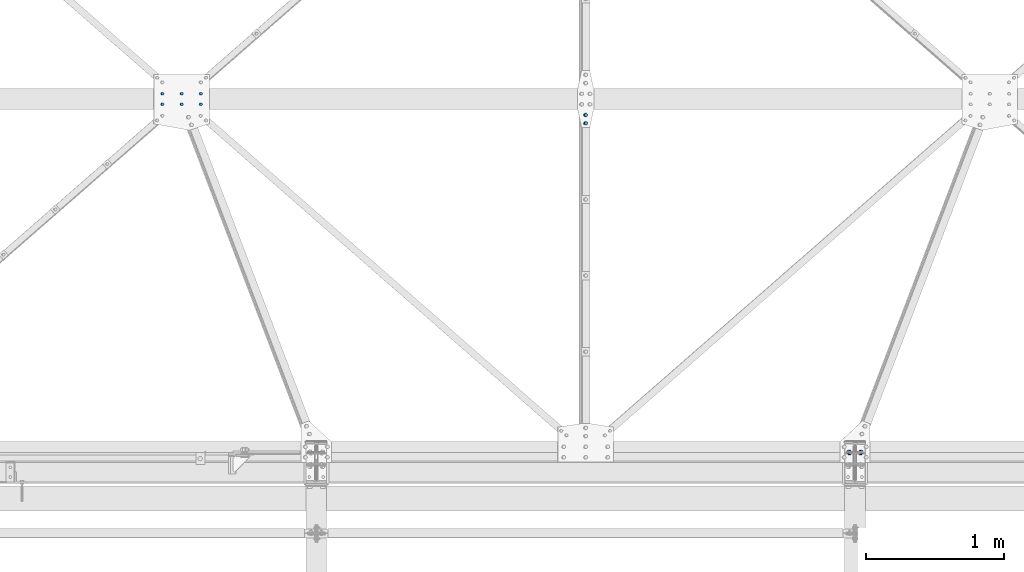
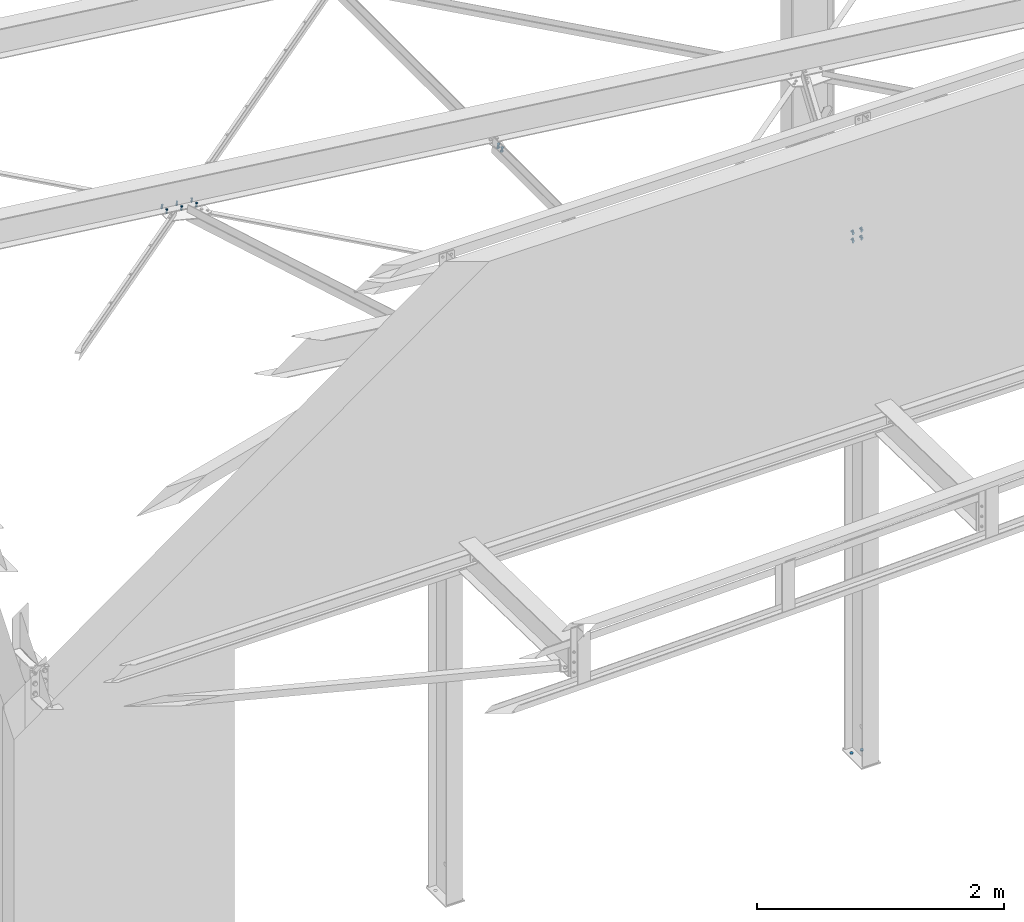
# One storey, part 28 of 3134: 4 mechanical fasteners, 4 elements without a shape of their own.
"""IFC2X3 building model written with IfcOpenShell, lengths in millimetres."""

from ifc_helpers import new_model, si_unit, frame, origin_with_axes, place, context, subcontext, project, spatial, faceted_brep, source, transform, mapped, material, type_object, element, aggregate, save


model = new_model("IFC2X3")

# Units and contexts
model_context = context("Model", 3, precision=1e-05, world=origin_with_axes())
body_context = subcontext(model_context, "Body", "Model", "MODEL_VIEW")
ifc_project = project(units=[si_unit("LENGTHUNIT", "METRE", prefix="MILLI"), si_unit("AREAUNIT", "SQUARE_METRE"), si_unit("VOLUMEUNIT", "CUBIC_METRE"), si_unit("MASSUNIT", "GRAM", prefix="KILO"), si_unit("TIMEUNIT", "SECOND"), si_unit("PLANEANGLEUNIT", "RADIAN"), si_unit("SOLIDANGLEUNIT", "STERADIAN"), si_unit("THERMODYNAMICTEMPERATUREUNIT", "DEGREE_CELSIUS"), si_unit("LUMINOUSINTENSITYUNIT", "LUMEN")], contexts=[model_context])

# Site, building, storey
site_placement = place(None, origin_with_axes())
site = spatial("IfcSite", under=ifc_project, at=site_placement, CompositionType="ELEMENT")
building_placement = place(site_placement, origin_with_axes())
building = spatial("IfcBuilding", under=site, at=building_placement, Name="Undefined", CompositionType="ELEMENT")
storey_placement = place(building_placement, origin_with_axes())
storey = spatial("IfcBuildingStorey", under=building, at=storey_placement, Name="Undefined", CompositionType="ELEMENT", Elevation=0.0)

# Assembly, mechanical fastener
assembly_1_placement = place(storey_placement, origin_with_axes())
assembly_1 = element("IfcElementAssembly", 1, at=assembly_1_placement, inside=storey, AssemblyPlace="NOTDEFINED", PredefinedType="RIGID_FRAME")
ifc_material = material(Name="8.8")
mechanical_fastener_type = type_object("IfcMechanicalFastenerType", Name="Bolt assembly")
shared_shape_1 = source(origin_with_axes(), body_context, "Body", "Brep", [
    faceted_brep([(13.856406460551, -16.9990000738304, 0.0), (6.92820323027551, -16.9990000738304, 12.0), (-6.92820323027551, -16.9990000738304, 12.0), (-13.856406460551, -16.9990000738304, 1.69692038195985e-15), (-6.92820323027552, -16.9990000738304, -12.0), (6.9282032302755, -16.9990000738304, -12.0), (6.9282032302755, -6.99900007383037, -12.0), (-6.92820323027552, -6.99900007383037, -12.0), (-13.856406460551, -6.99900007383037, 1.69692038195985e-15), (-6.92820323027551, -6.99900007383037, 12.0), (6.92820323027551, -6.99900007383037, 12.0), (13.856406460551, -6.99900007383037, 0.0), (8.0, -6.99900007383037, 0.0), (6.92820323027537, -6.99900007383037, 4.00000000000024), (3.99999999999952, -6.99900007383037, 6.92820323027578), (-8.29068785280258e-13, -6.99900007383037, 8.0), (-4.00000000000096, -6.99900007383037, 6.92820323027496), (-6.9282032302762, -6.99900007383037, 3.99999999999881), (-8.0, -6.99900007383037, -1.65813757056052e-12), (-6.92820323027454, -6.99900007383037, -4.00000000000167), (-3.99999999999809, -6.99900007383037, -6.92820323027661), (2.47832457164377e-12, -6.99900007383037, -8.0), (4.00000000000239, -6.99900007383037, -6.92820323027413), (6.92820323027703, -6.99900007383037, -3.99999999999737), (6.92820323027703, 33.0009999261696, -3.99999999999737), (4.00000000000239, 33.0009999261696, -6.92820323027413), (2.47832457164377e-12, 33.0009999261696, -8.0), (-3.99999999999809, 33.0009999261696, -6.92820323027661), (-6.92820323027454, 33.0009999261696, -4.00000000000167), (-8.0, 33.0009999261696, -1.65813757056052e-12), (-6.9282032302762, 33.0009999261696, 3.99999999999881), (-4.00000000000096, 33.0009999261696, 6.92820323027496), (-8.29068785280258e-13, 33.0009999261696, 8.0), (3.99999999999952, 33.0009999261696, 6.92820323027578), (6.92820323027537, 33.0009999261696, 4.00000000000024), (8.0, 33.0009999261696, 0.0), (13.856406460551, 14.9990000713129, 0.0), (6.92820323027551, 14.9990000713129, 12.0), (-6.92820323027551, 14.9990000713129, 12.0), (-13.856406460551, 14.9990000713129, 1.69692038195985e-15), (-6.92820323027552, 14.9990000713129, -12.0), (6.9282032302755, 14.9990000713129, -12.0), (6.9282032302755, 27.9990000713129, -12.0), (-6.92820323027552, 27.9990000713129, -12.0), (-13.856406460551, 27.9990000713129, 1.69692038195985e-15), (-6.92820323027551, 27.9990000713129, 12.0), (6.92820323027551, 27.9990000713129, 12.0), (13.856406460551, 27.9990000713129, 0.0)], [[[0, 1, 2, 3, 4, 5]], [[6, 7, 8, 9, 10, 11]], [[0, 11, 10, 1]], [[1, 10, 9, 2]], [[2, 9, 8, 3]], [[3, 8, 7, 4]], [[4, 7, 6, 5]], [[5, 6, 11, 0]], [[12, 13, 14, 15, 16, 17, 18, 19, 20, 21, 22, 23]], [[24, 25, 26, 27, 28, 29, 30, 31, 32, 33, 34, 35]], [[12, 35, 34, 13]], [[13, 34, 33, 14]], [[14, 33, 32, 15]], [[15, 32, 31, 16]], [[16, 31, 30, 17]], [[17, 30, 29, 18]], [[18, 29, 28, 19]], [[19, 28, 27, 20]], [[20, 27, 26, 21]], [[21, 26, 25, 22]], [[22, 25, 24, 23]], [[23, 24, 35, 12]], [[36, 37, 38, 39, 40, 41]], [[42, 43, 44, 45, 46, 47]], [[36, 47, 46, 37]], [[37, 46, 45, 38]], [[38, 45, 44, 39]], [[39, 44, 43, 40]], [[40, 43, 42, 41]], [[41, 42, 47, 36]]]),
    faceted_brep([(9.0, -3.46568413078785e-07, 0.0), (7.79422863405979, -3.46568413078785e-07, 4.50000000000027), (4.49999999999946, -3.46568413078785e-07, 7.79422863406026), (-9.3270238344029e-13, -3.46568413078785e-07, 9.0), (-4.50000000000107, -3.46568413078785e-07, 7.79422863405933), (-7.79422863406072, -3.46568413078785e-07, 4.49999999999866), (-9.0, -3.46568413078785e-07, -1.86540476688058e-12), (-7.79422863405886, -3.46568413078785e-07, -4.50000000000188), (-4.49999999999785, -3.46568413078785e-07, -7.79422863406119), (2.78811514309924e-12, -3.46568413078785e-07, -9.0), (4.50000000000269, -3.46568413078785e-07, -7.7942286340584), (7.79422863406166, -3.46568413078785e-07, -4.49999999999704), (7.79422863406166, 8.00000000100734, -4.49999999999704), (4.50000000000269, 8.00000000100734, -7.7942286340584), (2.78811514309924e-12, 8.00000000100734, -9.0), (-4.49999999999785, 8.00000000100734, -7.79422863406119), (-7.79422863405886, 8.00000000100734, -4.50000000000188), (-9.0, 8.00000000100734, -1.86540476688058e-12), (-7.79422863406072, 8.00000000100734, 4.49999999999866), (-4.50000000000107, 8.00000000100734, 7.79422863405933), (-9.3270238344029e-13, 8.00000000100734, 9.0), (4.49999999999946, 8.00000000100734, 7.79422863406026), (7.79422863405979, 8.00000000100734, 4.50000000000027), (9.0, 8.00000000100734, 0.0), (9.0, -6.89900007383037, 0.0), (7.79422863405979, -6.89900007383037, 4.50000000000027), (4.49999999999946, -6.89900007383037, 7.79422863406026), (-9.3270238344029e-13, -6.89900007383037, 9.0), (-4.50000000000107, -6.89900007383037, 7.79422863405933), (-7.79422863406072, -6.89900007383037, 4.49999999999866), (-9.0, -6.89900007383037, -1.86540476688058e-12), (-7.79422863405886, -6.89900007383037, -4.50000000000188), (-4.49999999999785, -6.89900007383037, -7.79422863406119), (2.78811514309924e-12, -6.89900007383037, -9.0), (4.50000000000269, -6.89900007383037, -7.7942286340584), (7.79422863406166, -6.89900007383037, -4.49999999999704), (7.79422863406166, 0.100999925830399, -4.49999999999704), (4.50000000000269, 0.100999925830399, -7.7942286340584), (2.78811514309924e-12, 0.100999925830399, -9.0), (-4.49999999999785, 0.100999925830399, -7.79422863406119), (-7.79422863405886, 0.100999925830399, -4.50000000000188), (-9.0, 0.100999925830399, -1.86540476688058e-12), (-7.79422863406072, 0.100999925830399, 4.49999999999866), (-4.50000000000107, 0.100999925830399, 7.79422863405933), (-9.3270238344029e-13, 0.100999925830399, 9.0), (4.49999999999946, 0.100999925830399, 7.79422863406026), (7.79422863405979, 0.100999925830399, 4.50000000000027), (9.0, 0.100999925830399, 0.0), (9.0, 7.89900007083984, 0.0), (7.79422863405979, 7.89900007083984, 4.50000000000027), (4.49999999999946, 7.89900007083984, 7.79422863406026), (-9.3270238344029e-13, 7.89900007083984, 9.0), (-4.50000000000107, 7.89900007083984, 7.79422863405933), (-7.79422863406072, 7.89900007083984, 4.49999999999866), (-9.0, 7.89900007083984, -1.86540476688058e-12), (-7.79422863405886, 7.89900007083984, -4.50000000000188), (-4.49999999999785, 7.89900007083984, -7.79422863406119), (2.78811514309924e-12, 7.89900007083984, -9.0), (4.50000000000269, 7.89900007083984, -7.7942286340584), (7.79422863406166, 7.89900007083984, -4.49999999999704), (7.79422863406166, 14.9990000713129, -4.49999999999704), (4.50000000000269, 14.9990000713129, -7.7942286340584), (2.78811514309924e-12, 14.9990000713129, -9.0), (-4.49999999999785, 14.9990000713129, -7.79422863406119), (-7.79422863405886, 14.9990000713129, -4.50000000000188), (-9.0, 14.9990000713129, -1.86540476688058e-12), (-7.79422863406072, 14.9990000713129, 4.49999999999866), (-4.50000000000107, 14.9990000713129, 7.79422863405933), (-9.3270238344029e-13, 14.9990000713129, 9.0), (4.49999999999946, 14.9990000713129, 7.79422863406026), (7.79422863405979, 14.9990000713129, 4.50000000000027), (9.0, 14.9990000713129, 0.0)], [[[0, 1, 2, 3, 4, 5, 6, 7, 8, 9, 10, 11]], [[12, 13, 14, 15, 16, 17, 18, 19, 20, 21, 22, 23]], [[0, 23, 22, 1]], [[1, 22, 21, 2]], [[2, 21, 20, 3]], [[3, 20, 19, 4]], [[4, 19, 18, 5]], [[5, 18, 17, 6]], [[6, 17, 16, 7]], [[7, 16, 15, 8]], [[8, 15, 14, 9]], [[9, 14, 13, 10]], [[10, 13, 12, 11]], [[11, 12, 23, 0]], [[24, 25, 26, 27, 28, 29, 30, 31, 32, 33, 34, 35]], [[36, 37, 38, 39, 40, 41, 42, 43, 44, 45, 46, 47]], [[24, 47, 46, 25]], [[25, 46, 45, 26]], [[26, 45, 44, 27]], [[27, 44, 43, 28]], [[28, 43, 42, 29]], [[29, 42, 41, 30]], [[30, 41, 40, 31]], [[31, 40, 39, 32]], [[32, 39, 38, 33]], [[33, 38, 37, 34]], [[34, 37, 36, 35]], [[35, 36, 47, 24]], [[48, 49, 50, 51, 52, 53, 54, 55, 56, 57, 58, 59]], [[60, 61, 62, 63, 64, 65, 66, 67, 68, 69, 70, 71]], [[48, 71, 70, 49]], [[49, 70, 69, 50]], [[50, 69, 68, 51]], [[51, 68, 67, 52]], [[52, 67, 66, 53]], [[53, 66, 65, 54]], [[54, 65, 64, 55]], [[55, 64, 63, 56]], [[56, 63, 62, 57]], [[57, 62, 61, 58]], [[58, 61, 60, 59]], [[59, 60, 71, 48]]]),
])
mechanical_fastener_1_placement = place(assembly_1_placement, frame((26687.9849612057, 2435.00000000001, 4806.73358921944), z_axis=(0.992623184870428, 0.0, -0.121240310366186), x_axis=(0.0, -1.0, 0.0)))
mechanical_fastener_1 = element("IfcMechanicalFastener", 2, at=mechanical_fastener_1_placement, type_object=mechanical_fastener_type, material=ifc_material, Name="Bolt assembly", NominalDiameter=16.0, NominalLength=40.0, context=body_context, shape_type="MappedRepresentation", body=[
    mapped(shared_shape_1, transform((0.0, 0.0, 0.0))),
    mapped(shared_shape_1, transform((59.9999999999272, 0.0, 5.40239852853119e-10))),
])
aggregate(assembly_1, [mechanical_fastener_1])

assembly_2_placement = place(storey_placement, origin_with_axes())
assembly_2 = element("IfcElementAssembly", 3, at=assembly_2_placement, inside=storey, Name="300", AssemblyPlace="NOTDEFINED", PredefinedType="RIGID_FRAME")
shared_shape_2 = source(origin_with_axes(), body_context, "Body", "Brep", [
    faceted_brep([(10.9696551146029, -21.0500000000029, 0.0), (5.48482755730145, -21.0500000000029, 9.5), (-5.48482755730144, -21.0500000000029, 9.5), (-10.9696551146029, -21.0500000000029, 1.34339530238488e-15), (-5.48482755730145, -21.0500000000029, -9.5), (5.48482755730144, -21.0500000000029, -9.50000000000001), (5.48482755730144, -13.0500000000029, -9.50000000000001), (-5.48482755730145, -13.0500000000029, -9.5), (-10.9696551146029, -13.0500000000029, 1.34339530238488e-15), (-5.48482755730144, -13.0500000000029, 9.5), (5.48482755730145, -13.0500000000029, 9.5), (10.9696551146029, -13.0500000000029, 0.0), (6.0, -13.0500000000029, 0.0), (5.19615242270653, -13.0500000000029, 3.00000000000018), (2.99999999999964, -13.0500000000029, 5.19615242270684), (-6.21801588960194e-13, -13.0500000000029, 6.0), (-3.00000000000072, -13.0500000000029, 5.19615242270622), (-5.19615242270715, -13.0500000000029, 2.9999999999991), (-6.0, -13.0500000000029, -1.24360317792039e-12), (-5.19615242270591, -13.0500000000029, -3.00000000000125), (-2.99999999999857, -13.0500000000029, -5.19615242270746), (1.85874342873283e-12, -13.0500000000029, -6.0), (3.00000000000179, -13.0500000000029, -5.1961524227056), (5.19615242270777, -13.0500000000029, -2.99999999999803), (5.19615242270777, 16.9499999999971, -2.99999999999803), (3.00000000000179, 16.9499999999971, -5.1961524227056), (1.85874342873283e-12, 16.9499999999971, -6.0), (-2.99999999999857, 16.9499999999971, -5.19615242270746), (-5.19615242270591, 16.9499999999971, -3.00000000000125), (-6.0, 16.9499999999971, -1.24360317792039e-12), (-5.19615242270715, 16.9499999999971, 2.9999999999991), (-3.00000000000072, 16.9499999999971, 5.19615242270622), (-6.21801588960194e-13, 16.9499999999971, 6.0), (2.99999999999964, 16.9499999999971, 5.19615242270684), (5.19615242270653, 16.9499999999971, 3.00000000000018), (6.0, 16.9499999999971, 0.0), (10.9696551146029, 3.04999995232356, 0.0), (5.48482755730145, 3.04999995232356, 9.5), (-5.48482755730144, 3.04999995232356, 9.5), (-10.9696551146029, 3.04999995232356, 1.34339530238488e-15), (-5.48482755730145, 3.04999995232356, -9.5), (5.48482755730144, 3.04999995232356, -9.50000000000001), (5.48482755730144, 13.0499999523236, -9.50000000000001), (-5.48482755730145, 13.0499999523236, -9.5), (-10.9696551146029, 13.0499999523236, 1.34339530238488e-15), (-5.48482755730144, 13.0499999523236, 9.5), (5.48482755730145, 13.0499999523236, 9.5), (10.9696551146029, 13.0499999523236, 0.0)], [[[0, 1, 2, 3, 4, 5]], [[6, 7, 8, 9, 10, 11]], [[0, 11, 10, 1]], [[1, 10, 9, 2]], [[2, 9, 8, 3]], [[3, 8, 7, 4]], [[4, 7, 6, 5]], [[5, 6, 11, 0]], [[12, 13, 14, 15, 16, 17, 18, 19, 20, 21, 22, 23]], [[24, 25, 26, 27, 28, 29, 30, 31, 32, 33, 34, 35]], [[12, 35, 34, 13]], [[13, 34, 33, 14]], [[14, 33, 32, 15]], [[15, 32, 31, 16]], [[16, 31, 30, 17]], [[17, 30, 29, 18]], [[18, 29, 28, 19]], [[19, 28, 27, 20]], [[20, 27, 26, 21]], [[21, 26, 25, 22]], [[22, 25, 24, 23]], [[23, 24, 35, 12]], [[36, 37, 38, 39, 40, 41]], [[42, 43, 44, 45, 46, 47]], [[36, 47, 46, 37]], [[37, 46, 45, 38]], [[38, 45, 44, 39]], [[39, 44, 43, 40]], [[40, 43, 42, 41]], [[41, 42, 47, 36]]]),
    faceted_brep([(26.0, -12.9500000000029, 0.0), (25.4671567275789, -12.9500000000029, 2.6787840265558), (23.9497474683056, -12.9500000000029, 4.94974746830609), (21.6787840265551, -12.9500000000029, 6.46715672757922), (-19.0000000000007, -12.9500000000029, 7.0), (-22.5000000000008, -12.9500000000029, 6.06217782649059), (-25.0621778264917, -12.9500000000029, 3.49999999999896), (-26.0, -12.9500000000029, -1.45087037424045e-12), (-25.0621778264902, -12.9500000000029, -3.50000000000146), (-22.4999999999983, -12.9500000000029, -6.06217782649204), (-18.9999999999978, -12.9500000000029, -7.0), (19.0000000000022, -12.9500000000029, -7.0), (22.5000000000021, -12.9500000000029, -6.06217782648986), (25.0621778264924, -12.9500000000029, -3.4999999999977), (26.0, -2.95000000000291, 0.0), (25.0621778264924, -2.95000000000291, -3.4999999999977), (22.5000000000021, -2.95000000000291, -6.06217782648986), (19.0000000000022, -2.95000000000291, -7.0), (-18.9999999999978, -2.95000000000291, -7.0), (-22.4999999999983, -2.95000000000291, -6.06217782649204), (-25.0621778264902, -2.95000000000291, -3.50000000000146), (-26.0, -2.95000000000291, -1.45087037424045e-12), (-25.0621778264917, -2.95000000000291, 3.49999999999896), (-22.5000000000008, -2.95000000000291, 6.06217782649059), (-19.0000000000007, -2.95000000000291, 7.0), (21.6787840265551, -2.95000000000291, 6.46715672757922), (23.9497474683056, -2.95000000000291, 4.94974746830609), (25.4671567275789, -2.95000000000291, 2.6787840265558), (7.0, -3.14999995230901, 0.0), (6.06217782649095, -3.14999995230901, 3.50000000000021), (3.49999999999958, -3.14999995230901, 6.06217782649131), (-7.25435187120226e-13, -3.14999995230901, 7.0), (-3.50000000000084, -3.14999995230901, 6.06217782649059), (-6.06217782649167, -3.14999995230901, 3.49999999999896), (-7.0, -3.14999995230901, -1.45087037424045e-12), (-6.06217782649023, -3.14999995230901, -3.50000000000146), (-3.49999999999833, -3.14999995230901, -6.06217782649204), (2.1685340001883e-12, -3.14999995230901, -7.0), (3.50000000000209, -3.14999995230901, -6.06217782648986), (6.0621778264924, -3.14999995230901, -3.4999999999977), (6.0621778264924, 3.04999995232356, -3.4999999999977), (3.50000000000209, 3.04999995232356, -6.06217782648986), (2.1685340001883e-12, 3.04999995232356, -7.0), (-3.49999999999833, 3.04999995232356, -6.06217782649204), (-6.06217782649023, 3.04999995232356, -3.50000000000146), (-7.0, 3.04999995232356, -1.45087037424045e-12), (-6.06217782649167, 3.04999995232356, 3.49999999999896), (-3.50000000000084, 3.04999995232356, 6.06217782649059), (-7.25435187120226e-13, 3.04999995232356, 7.0), (3.49999999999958, 3.04999995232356, 6.06217782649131), (6.06217782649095, 3.04999995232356, 3.50000000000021), (7.0, 3.04999995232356, 0.0)], [[[0, 1, 2, 3, 4, 5, 6, 7, 8, 9, 10, 11, 12, 13]], [[14, 15, 16, 17, 18, 19, 20, 21, 22, 23, 24, 25, 26, 27]], [[0, 14, 27, 1]], [[1, 27, 26, 2]], [[2, 26, 25, 3]], [[3, 25, 24, 4]], [[4, 24, 23, 5]], [[5, 23, 22, 6]], [[6, 22, 21, 7]], [[7, 21, 20, 8]], [[8, 20, 19, 9]], [[9, 19, 18, 10]], [[10, 18, 17, 11]], [[11, 17, 16, 12]], [[12, 16, 15, 13]], [[13, 15, 14, 0]], [[28, 29, 30, 31, 32, 33, 34, 35, 36, 37, 38, 39]], [[40, 41, 42, 43, 44, 45, 46, 47, 48, 49, 50, 51]], [[28, 51, 50, 29]], [[29, 50, 49, 30]], [[30, 49, 48, 31]], [[31, 48, 47, 32]], [[32, 47, 46, 33]], [[33, 46, 45, 34]], [[34, 45, 44, 35]], [[35, 44, 43, 36]], [[36, 43, 42, 37]], [[37, 42, 41, 38]], [[38, 41, 40, 39]], [[39, 40, 51, 28]]]),
])
mechanical_fastener_2_placement = place(assembly_2_placement, frame((28632.9999999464, 0.0, 4758.76642111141), z_axis=(1.0, 0.0, 0.0), x_axis=(0.0, 0.0, -1.0)))
mechanical_fastener_2 = element("IfcMechanicalFastener", 4, at=mechanical_fastener_2_placement, type_object=mechanical_fastener_type, material=ifc_material, Name="Bolt assembly", NominalDiameter=12.0, NominalLength=30.0, context=body_context, shape_type="MappedRepresentation", body=[
    mapped(shared_shape_2, transform((0.0, 0.0, -40.0))),
    mapped(shared_shape_2, transform((80.0, 0.0, -40.0))),
    mapped(shared_shape_2, transform((0.0, 0.0, 40.0))),
    mapped(shared_shape_2, transform((80.0, 0.0, 40.0))),
])
aggregate(assembly_2, [mechanical_fastener_2])

assembly_3_placement = place(storey_placement, origin_with_axes())
assembly_3 = element("IfcElementAssembly", 5, at=assembly_3_placement, inside=storey, Name="300", AssemblyPlace="NOTDEFINED", PredefinedType="RIGID_FRAME")
shared_shape_3 = source(origin_with_axes(), body_context, "Body", "Brep", [
    faceted_brep([(10.9696551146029, -17.1999998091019, 0.0), (5.48482755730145, -17.1999998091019, 9.5), (-5.48482755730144, -17.1999998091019, 9.5), (-10.9696551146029, -17.1999998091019, 1.34339530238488e-15), (-5.48482755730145, -17.1999998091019, -9.5), (5.48482755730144, -17.1999998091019, -9.50000000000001), (5.48482755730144, -9.19999978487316, -9.50000000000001), (-5.48482755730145, -9.19999978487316, -9.5), (-10.9696551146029, -9.19999978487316, 1.34339530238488e-15), (-5.48482755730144, -9.19999978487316, 9.5), (5.48482755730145, -9.19999978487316, 9.5), (10.9696551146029, -9.19999978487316, 0.0), (6.0, -9.19999978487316, 0.0), (5.19615242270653, -9.19999978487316, 3.00000000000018), (2.99999999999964, -9.19999978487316, 5.19615242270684), (-6.21801588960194e-13, -9.19999978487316, 6.0), (-3.00000000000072, -9.19999978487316, 5.19615242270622), (-5.19615242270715, -9.19999978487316, 2.9999999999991), (-6.0, -9.19999978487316, -1.24360317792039e-12), (-5.19615242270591, -9.19999978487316, -3.00000000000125), (-2.99999999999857, -9.19999978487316, -5.19615242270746), (1.85874342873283e-12, -9.19999978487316, -6.0), (3.00000000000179, -9.19999978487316, -5.1961524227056), (5.19615242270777, -9.19999978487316, -2.99999999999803), (5.19615242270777, 25.8000002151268, -2.99999999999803), (3.00000000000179, 25.8000002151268, -5.1961524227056), (1.85874342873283e-12, 25.8000002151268, -6.0), (-2.99999999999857, 25.8000002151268, -5.19615242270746), (-5.19615242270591, 25.8000002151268, -3.00000000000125), (-6.0, 25.8000002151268, -1.24360317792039e-12), (-5.19615242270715, 25.8000002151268, 2.9999999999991), (-3.00000000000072, 25.8000002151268, 5.19615242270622), (-6.21801588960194e-13, 25.8000002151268, 6.0), (2.99999999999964, 25.8000002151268, 5.19615242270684), (5.19615242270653, 25.8000002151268, 3.00000000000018), (6.0, 25.8000002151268, 0.0), (10.9696551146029, 8.0, 0.0), (5.48482755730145, 8.0, 9.5), (-5.48482755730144, 8.0, 9.5), (-10.9696551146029, 8.0, 1.34339530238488e-15), (-5.48482755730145, 8.0, -9.5), (5.48482755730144, 8.0, -9.50000000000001), (5.48482755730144, 18.0, -9.50000000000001), (-5.48482755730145, 18.0, -9.5), (-10.9696551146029, 18.0, 1.34339530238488e-15), (-5.48482755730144, 18.0, 9.5), (5.48482755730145, 18.0, 9.5), (10.9696551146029, 18.0, 0.0)], [[[0, 1, 2, 3, 4, 5]], [[6, 7, 8, 9, 10, 11]], [[0, 11, 10, 1]], [[1, 10, 9, 2]], [[2, 9, 8, 3]], [[3, 8, 7, 4]], [[4, 7, 6, 5]], [[5, 6, 11, 0]], [[12, 13, 14, 15, 16, 17, 18, 19, 20, 21, 22, 23]], [[24, 25, 26, 27, 28, 29, 30, 31, 32, 33, 34, 35]], [[12, 35, 34, 13]], [[13, 34, 33, 14]], [[14, 33, 32, 15]], [[15, 32, 31, 16]], [[16, 31, 30, 17]], [[17, 30, 29, 18]], [[18, 29, 28, 19]], [[19, 28, 27, 20]], [[20, 27, 26, 21]], [[21, 26, 25, 22]], [[22, 25, 24, 23]], [[23, 24, 35, 12]], [[36, 37, 38, 39, 40, 41]], [[42, 43, 44, 45, 46, 47]], [[36, 47, 46, 37]], [[37, 46, 45, 38]], [[38, 45, 44, 39]], [[39, 44, 43, 40]], [[40, 43, 42, 41]], [[41, 42, 47, 36]]]),
    faceted_brep([(7.0, -0.1, 0.0), (6.06217782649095, -0.1, 3.50000000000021), (3.49999999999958, -0.1, 6.06217782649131), (-7.25435187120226e-13, -0.1, 7.0), (-3.50000000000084, -0.1, 6.06217782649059), (-6.06217782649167, -0.1, 3.49999999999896), (-7.0, -0.1, -1.45087037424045e-12), (-6.06217782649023, -0.1, -3.50000000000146), (-3.49999999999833, -0.1, -6.06217782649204), (2.1685340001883e-12, -0.1, -7.0), (3.50000000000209, -0.1, -6.06217782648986), (6.0621778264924, -0.1, -3.4999999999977), (6.0621778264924, 8.0000000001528, -3.4999999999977), (3.50000000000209, 8.0000000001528, -6.06217782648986), (2.1685340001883e-12, 8.0000000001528, -7.0), (-3.49999999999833, 8.0000000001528, -6.06217782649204), (-6.06217782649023, 8.0000000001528, -3.50000000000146), (-7.0, 8.0000000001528, -1.45087037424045e-12), (-6.06217782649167, 8.0000000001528, 3.49999999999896), (-3.50000000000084, 8.0000000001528, 6.06217782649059), (-7.25435187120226e-13, 8.0000000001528, 7.0), (3.49999999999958, 8.0000000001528, 6.06217782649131), (6.06217782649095, 8.0000000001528, 3.50000000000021), (7.0, 8.0000000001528, 0.0), (7.0, -9.09999980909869, 0.0), (6.06217782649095, -9.09999980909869, 3.50000000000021), (3.49999999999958, -9.09999980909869, 6.06217782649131), (-7.25435187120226e-13, -9.09999980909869, 7.0), (-3.50000000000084, -9.09999980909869, 6.06217782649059), (-6.06217782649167, -9.09999980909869, 3.49999999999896), (-7.0, -9.09999980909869, -1.45087037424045e-12), (-6.06217782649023, -9.09999980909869, -3.50000000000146), (-3.49999999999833, -9.09999980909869, -6.06217782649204), (2.1685340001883e-12, -9.09999980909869, -7.0), (3.50000000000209, -9.09999980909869, -6.06217782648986), (6.0621778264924, -9.09999980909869, -3.4999999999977), (6.0621778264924, 0.0999999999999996, -3.4999999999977), (3.50000000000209, 0.0999999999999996, -6.06217782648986), (2.1685340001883e-12, 0.0999999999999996, -7.0), (-3.49999999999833, 0.0999999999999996, -6.06217782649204), (-6.06217782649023, 0.0999999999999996, -3.50000000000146), (-7.0, 0.0999999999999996, -1.45087037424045e-12), (-6.06217782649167, 0.0999999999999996, 3.49999999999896), (-3.50000000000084, 0.0999999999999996, 6.06217782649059), (-7.25435187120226e-13, 0.0999999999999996, 7.0), (3.49999999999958, 0.0999999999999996, 6.06217782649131), (6.06217782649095, 0.0999999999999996, 3.50000000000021), (7.0, 0.0999999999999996, 0.0)], [[[0, 1, 2, 3, 4, 5, 6, 7, 8, 9, 10, 11]], [[12, 13, 14, 15, 16, 17, 18, 19, 20, 21, 22, 23]], [[0, 23, 22, 1]], [[1, 22, 21, 2]], [[2, 21, 20, 3]], [[3, 20, 19, 4]], [[4, 19, 18, 5]], [[5, 18, 17, 6]], [[6, 17, 16, 7]], [[7, 16, 15, 8]], [[8, 15, 14, 9]], [[9, 14, 13, 10]], [[10, 13, 12, 11]], [[11, 12, 23, 0]], [[24, 25, 26, 27, 28, 29, 30, 31, 32, 33, 34, 35]], [[36, 37, 38, 39, 40, 41, 42, 43, 44, 45, 46, 47]], [[24, 47, 46, 25]], [[25, 46, 45, 26]], [[26, 45, 44, 27]], [[27, 44, 43, 28]], [[28, 43, 42, 29]], [[29, 42, 41, 30]], [[30, 41, 40, 31]], [[31, 40, 39, 32]], [[32, 39, 38, 33]], [[33, 38, 37, 34]], [[34, 37, 36, 35]], [[35, 36, 47, 24]]]),
])
mechanical_fastener_3_placement = place(assembly_3_placement, frame((23908.202206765, 2550.0, 5146.25993621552), z_axis=(0.0, -1.0, 0.0), x_axis=(-0.992623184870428, 0.0, 0.121240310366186)))
mechanical_fastener_3 = element("IfcMechanicalFastener", 6, at=mechanical_fastener_3_placement, type_object=mechanical_fastener_type, material=ifc_material, Name="Bolt assembly", NominalDiameter=12.0, NominalLength=35.0, context=body_context, shape_type="MappedRepresentation", body=[
    mapped(shared_shape_3, transform((0.0, 0.0, -38.0))),
    mapped(shared_shape_3, transform((140.000000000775, 5.85714587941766e-10, -38.0))),
    mapped(shared_shape_3, transform((279.999999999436, -4.74756234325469e-10, -38.0))),
    mapped(shared_shape_3, transform((0.0, 0.0, 38.0))),
    mapped(shared_shape_3, transform((140.000000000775, 5.85714587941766e-10, 38.0))),
    mapped(shared_shape_3, transform((279.999999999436, -4.74756234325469e-10, 38.0))),
])
aggregate(assembly_3, [mechanical_fastener_3])

assembly_4_placement = place(storey_placement, origin_with_axes())
assembly_4 = element("IfcElementAssembly", 7, at=assembly_4_placement, inside=storey, Name="300", AssemblyPlace="NOTDEFINED", PredefinedType="RIGID_FRAME")
shared_shape_4 = source(origin_with_axes(), body_context, "Body", "Brep", [
    faceted_brep([(13.0, -25.000000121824, 0.0), (11.2583302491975, -25.000000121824, 6.50000000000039), (6.49999999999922, -25.000000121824, 11.2583302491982), (-1.34723677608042e-12, -25.000000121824, 13.0), (-6.50000000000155, -25.000000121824, 11.2583302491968), (-11.2583302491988, -25.000000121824, 6.49999999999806), (-13.0, -25.000000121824, -2.69447355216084e-12), (-11.2583302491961, -25.000000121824, -6.50000000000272), (-6.4999999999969, -25.000000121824, -11.2583302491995), (4.02727742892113e-12, -25.000000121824, -13.0), (6.50000000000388, -25.000000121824, -11.2583302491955), (11.2583302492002, -25.000000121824, -6.49999999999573), (11.2583302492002, -12.900000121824, -6.49999999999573), (6.50000000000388, -12.900000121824, -11.2583302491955), (4.02727742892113e-12, -12.900000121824, -13.0), (-6.4999999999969, -12.900000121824, -11.2583302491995), (-11.2583302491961, -12.900000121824, -6.50000000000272), (-13.0, -12.900000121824, -2.69447355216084e-12), (-11.2583302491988, -12.900000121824, 6.49999999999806), (-6.50000000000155, -12.900000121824, 11.2583302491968), (-1.34723677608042e-12, -12.900000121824, 13.0), (6.49999999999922, -12.900000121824, 11.2583302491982), (11.2583302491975, -12.900000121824, 6.50000000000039), (13.0, -12.900000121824, 0.0)], [[[0, 1, 2, 3, 4, 5, 6, 7, 8, 9, 10, 11]], [[12, 13, 14, 15, 16, 17, 18, 19, 20, 21, 22, 23]], [[0, 23, 22, 1]], [[1, 22, 21, 2]], [[2, 21, 20, 3]], [[3, 20, 19, 4]], [[4, 19, 18, 5]], [[5, 18, 17, 6]], [[6, 17, 16, 7]], [[7, 16, 15, 8]], [[8, 15, 14, 9]], [[9, 14, 13, 10]], [[10, 13, 12, 11]], [[11, 12, 23, 0]]]),
])
mechanical_fastener_4_placement = place(assembly_4_placement, frame((28633.0000000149, -301.499999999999, -374.999999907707), z_axis=(1.0, 0.0, 0.0), x_axis=(0.0, 1.0, 0.0)))
mechanical_fastener_4 = element("IfcMechanicalFastener", 8, at=mechanical_fastener_4_placement, type_object=mechanical_fastener_type, material=ifc_material, Name="Bolt assembly", NominalDiameter=24.0, NominalLength=12.0, context=body_context, shape_type="MappedRepresentation", body=[
    mapped(shared_shape_4, transform((301.5, 0.0, -48.0))),
    mapped(shared_shape_4, transform((301.5, 0.0, 48.0))),
])
aggregate(assembly_4, [mechanical_fastener_4])

save(model, "model.ifc")
